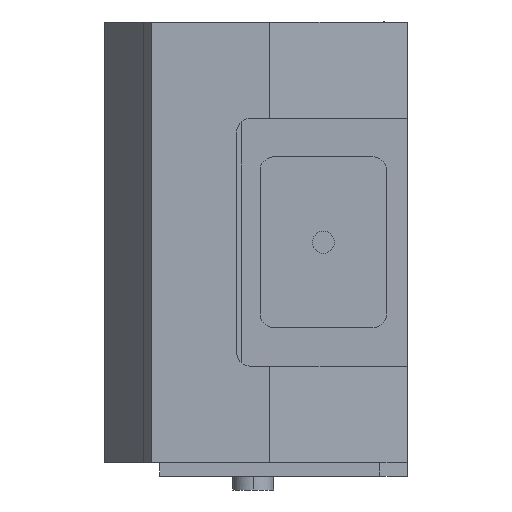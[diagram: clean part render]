
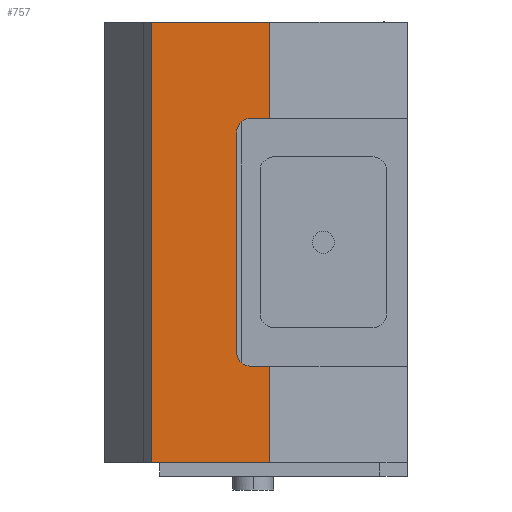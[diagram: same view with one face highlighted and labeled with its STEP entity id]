
A CAD part, left-side view. The second image highlights one B-rep face of the part: STEP entity #757.
In plain terms, the highlighted planar face has unit normal (-1, 0, 0).
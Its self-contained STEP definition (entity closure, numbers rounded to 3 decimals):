
#35 = AXIS2_PLACEMENT_3D ( 'NONE', #5906, #2578, #8525 ) ;
#757 = ADVANCED_FACE ( 'NONE', ( #36586 ), #20230, .F. ) ;
#851 = CARTESIAN_POINT ( 'NONE',  ( -150., 50., 80. ) ) ;
#1282 = LINE ( 'NONE', #32127, #3500 ) ;
#2578 = DIRECTION ( 'NONE',  ( 1., 0., 0. ) ) ;
#2963 = ORIENTED_EDGE ( 'NONE', *, *, #26373, .F. ) ;
#3130 = EDGE_CURVE ( 'NONE', #15657, #15607, #12621, .T. ) ;
#3395 = EDGE_LOOP ( 'NONE', ( #11455, #14048, #23382, #32824, #30756, #30680, #5930, #2963, #15154, #12001 ) ) ;
#3500 = VECTOR ( 'NONE', #12614, 1000. ) ;
#3834 = DIRECTION ( 'NONE',  ( 0., 0., -1. ) ) ;
#4712 = VECTOR ( 'NONE', #3834, 1000. ) ;
#4762 = VECTOR ( 'NONE', #35144, 1000. ) ;
#5304 = VERTEX_POINT ( 'NONE', #36350 ) ;
#5906 = CARTESIAN_POINT ( 'NONE',  ( -150., 110., 80. ) ) ;
#5930 = ORIENTED_EDGE ( 'NONE', *, *, #33235, .F. ) ;
#6184 = DIRECTION ( 'NONE',  ( 1., 0., 0. ) ) ;
#7868 = EDGE_CURVE ( 'NONE', #13441, #14728, #26517, .T. ) ;
#8525 = DIRECTION ( 'NONE',  ( 0., 0., -1. ) ) ;
#9652 = AXIS2_PLACEMENT_3D ( 'NONE', #31638, #6184, #25335 ) ;
#9986 = CARTESIAN_POINT ( 'NONE',  ( -150., 110., -80. ) ) ;
#11067 = CARTESIAN_POINT ( 'NONE',  ( -150., 93., -80. ) ) ;
#11455 = ORIENTED_EDGE ( 'NONE', *, *, #3130, .T. ) ;
#11790 = DIRECTION ( 'NONE',  ( 0., 1., 0. ) ) ;
#12001 = ORIENTED_EDGE ( 'NONE', *, *, #22627, .T. ) ;
#12230 = CARTESIAN_POINT ( 'NONE',  ( -150., 93., -80.001 ) ) ;
#12614 = DIRECTION ( 'NONE',  ( 0., 1., 0. ) ) ;
#12621 = CIRCLE ( 'NONE', #9652, 5. ) ;
#12815 = VECTOR ( 'NONE', #32930, 1000. ) ;
#12974 = VERTEX_POINT ( 'NONE', #27444 ) ;
#13441 = VERTEX_POINT ( 'NONE', #22131 ) ;
#14048 = ORIENTED_EDGE ( 'NONE', *, *, #27149, .F. ) ;
#14317 = VECTOR ( 'NONE', #11790, 1000. ) ;
#14728 = VERTEX_POINT ( 'NONE', #25926 ) ;
#15154 = ORIENTED_EDGE ( 'NONE', *, *, #7868, .T. ) ;
#15199 = DIRECTION ( 'NONE',  ( 0., 0., -1. ) ) ;
#15472 = LINE ( 'NONE', #27183, #12815 ) ;
#15607 = VERTEX_POINT ( 'NONE', #21738 ) ;
#15657 = VERTEX_POINT ( 'NONE', #33074 ) ;
#15935 = DIRECTION ( 'NONE',  ( 0., -1., 0. ) ) ;
#16843 = VERTEX_POINT ( 'NONE', #31550 ) ;
#16903 = VECTOR ( 'NONE', #15935, 1000. ) ;
#17010 = EDGE_CURVE ( 'NONE', #35580, #12974, #25919, .T. ) ;
#17182 = CARTESIAN_POINT ( 'NONE',  ( -150., 110., 80. ) ) ;
#18245 = CARTESIAN_POINT ( 'NONE',  ( -150., 50., 80. ) ) ;
#18470 = EDGE_CURVE ( 'NONE', #12974, #22371, #29333, .T. ) ;
#19528 = CARTESIAN_POINT ( 'NONE',  ( -150., 50., 80. ) ) ;
#19984 = VECTOR ( 'NONE', #23906, 1000. ) ;
#20230 = PLANE ( 'NONE',  #35 ) ;
#20834 = VERTEX_POINT ( 'NONE', #31754 ) ;
#21738 = CARTESIAN_POINT ( 'NONE',  ( -150., 57., 45. ) ) ;
#22110 = VECTOR ( 'NONE', #15199, 1000. ) ;
#22131 = CARTESIAN_POINT ( 'NONE',  ( -150., 57., -45. ) ) ;
#22371 = VERTEX_POINT ( 'NONE', #11067 ) ;
#22627 = EDGE_CURVE ( 'NONE', #14728, #15657, #15472, .T. ) ;
#23382 = ORIENTED_EDGE ( 'NONE', *, *, #34210, .F. ) ;
#23539 = AXIS2_PLACEMENT_3D ( 'NONE', #27962, #33716, #28135 ) ;
#23794 = EDGE_CURVE ( 'NONE', #22371, #16843, #27094, .T. ) ;
#23906 = DIRECTION ( 'NONE',  ( 0., -1., 0. ) ) ;
#25335 = DIRECTION ( 'NONE',  ( 0., 0., -1. ) ) ;
#25919 = LINE ( 'NONE', #17182, #14317 ) ;
#25926 = CARTESIAN_POINT ( 'NONE',  ( -150., 62., -40. ) ) ;
#26124 = LINE ( 'NONE', #34851, #19984 ) ;
#26319 = LINE ( 'NONE', #851, #4712 ) ;
#26373 = EDGE_CURVE ( 'NONE', #13441, #20834, #26124, .T. ) ;
#26517 = CIRCLE ( 'NONE', #23539, 5. ) ;
#27094 = LINE ( 'NONE', #9986, #16903 ) ;
#27149 = EDGE_CURVE ( 'NONE', #5304, #15607, #1282, .T. ) ;
#27183 = CARTESIAN_POINT ( 'NONE',  ( -150., 62., -45. ) ) ;
#27444 = CARTESIAN_POINT ( 'NONE',  ( -150., 93., 80. ) ) ;
#27962 = CARTESIAN_POINT ( 'NONE',  ( -150., 57., -40. ) ) ;
#28135 = DIRECTION ( 'NONE',  ( 0., 0., -1. ) ) ;
#29333 = LINE ( 'NONE', #12230, #22110 ) ;
#30680 = ORIENTED_EDGE ( 'NONE', *, *, #23794, .T. ) ;
#30756 = ORIENTED_EDGE ( 'NONE', *, *, #18470, .T. ) ;
#31550 = CARTESIAN_POINT ( 'NONE',  ( -150., 50., -80. ) ) ;
#31638 = CARTESIAN_POINT ( 'NONE',  ( -150., 57., 40. ) ) ;
#31754 = CARTESIAN_POINT ( 'NONE',  ( -150., 50., -45. ) ) ;
#31800 = LINE ( 'NONE', #18245, #4762 ) ;
#32127 = CARTESIAN_POINT ( 'NONE',  ( -150., 110., 45. ) ) ;
#32824 = ORIENTED_EDGE ( 'NONE', *, *, #17010, .T. ) ;
#32930 = DIRECTION ( 'NONE',  ( 0., 0., 1. ) ) ;
#33074 = CARTESIAN_POINT ( 'NONE',  ( -150., 62., 40. ) ) ;
#33235 = EDGE_CURVE ( 'NONE', #20834, #16843, #26319, .T. ) ;
#33716 = DIRECTION ( 'NONE',  ( 1., 0., 0. ) ) ;
#34210 = EDGE_CURVE ( 'NONE', #35580, #5304, #31800, .T. ) ;
#34851 = CARTESIAN_POINT ( 'NONE',  ( -150., 110., -45. ) ) ;
#35144 = DIRECTION ( 'NONE',  ( 0., 0., -1. ) ) ;
#35580 = VERTEX_POINT ( 'NONE', #19528 ) ;
#36350 = CARTESIAN_POINT ( 'NONE',  ( -150., 50., 45. ) ) ;
#36586 = FACE_OUTER_BOUND ( 'NONE', #3395, .T. ) ;
